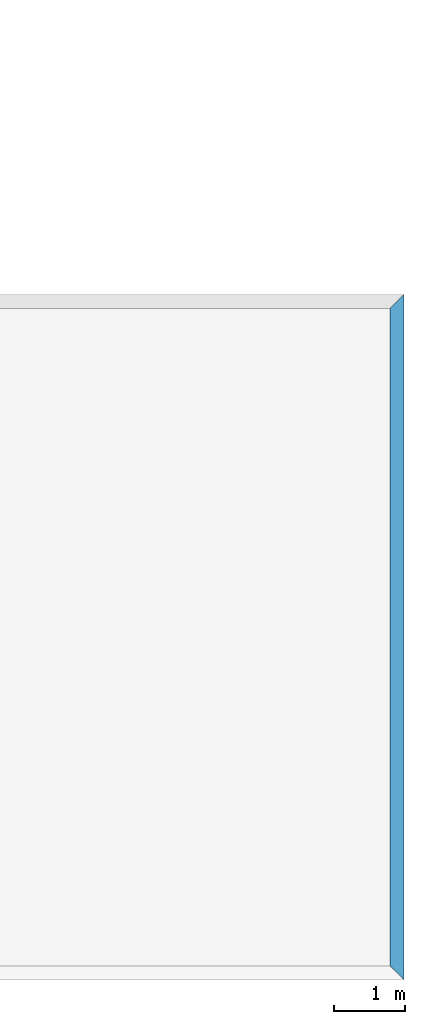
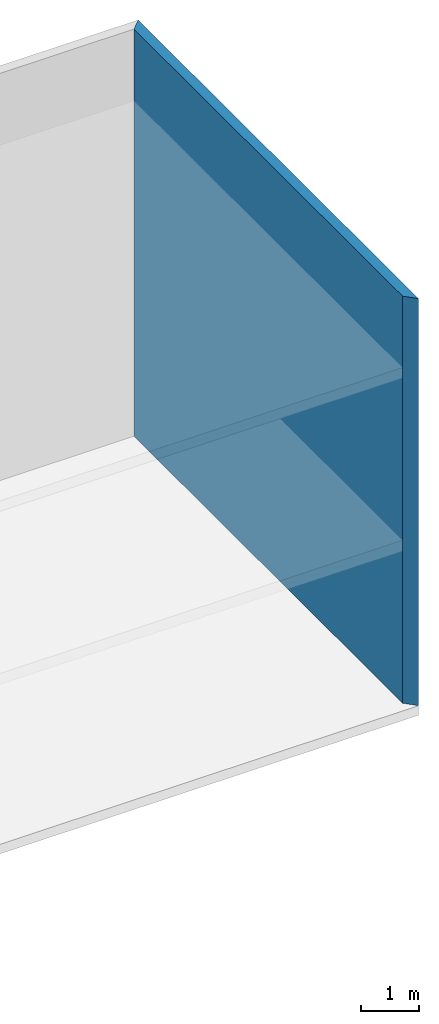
# One storey, part 3 of 10: 1 beam, 1 element without a shape of its own.
"""IFC2X3 building model written with IfcOpenShell, lengths in millimetres."""

from ifc_helpers import new_model, si_unit, frame, origin_with_axes, origin_2d_with_axis, place, context, subcontext, project, spatial, rectangle, extrude, clip, halfspace, material, type_object, element, aggregate, save


model = new_model("IFC2X3")

# Units and contexts
model_context = context("Model", 3, precision=1e-05, world=origin_with_axes())
body_context = subcontext(model_context, "Body", "Model", "MODEL_VIEW")
ifc_project = project(units=[si_unit("LENGTHUNIT", "METRE", prefix="MILLI"), si_unit("AREAUNIT", "SQUARE_METRE"), si_unit("VOLUMEUNIT", "CUBIC_METRE"), si_unit("MASSUNIT", "GRAM", prefix="KILO"), si_unit("TIMEUNIT", "SECOND"), si_unit("PLANEANGLEUNIT", "RADIAN"), si_unit("SOLIDANGLEUNIT", "STERADIAN"), si_unit("THERMODYNAMICTEMPERATUREUNIT", "DEGREE_CELSIUS"), si_unit("LUMINOUSINTENSITYUNIT", "LUMEN")], contexts=[model_context])

# Site, building, storey
site_placement = place(None, origin_with_axes())
site = spatial("IfcSite", under=ifc_project, at=site_placement, Name="Undefined", CompositionType="ELEMENT")
building_placement = place(site_placement, origin_with_axes())
building = spatial("IfcBuilding", under=site, at=building_placement, Name="Undefined", CompositionType="ELEMENT")
storey_placement = place(building_placement, origin_with_axes())
storey = spatial("IfcBuildingStorey", under=building, at=storey_placement, Name="Undefined", CompositionType="ELEMENT", Elevation=0.0)

# Assembly, beam
assembly_placement = place(storey_placement, origin_with_axes())
assembly = element("IfcElementAssembly", 1, at=assembly_placement, inside=storey, Name="POUTRE", AssemblyPlace="NOTDEFINED", PredefinedType="REINFORCEMENT_UNIT")
ifc_material = material(Name="CONCRETE/C25/30")
beam_type = type_object("IfcBeamType", Name="8550*200", PredefinedType="NOTDEFINED")
beam_placement = place(assembly_placement, frame((48932.9999999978, 15389.9999999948, 4275.0), z_axis=(0.0, 0.0, 1.0), x_axis=(0.0, 1.0, 0.0)))
beam = element("IfcBeam", 2, at=beam_placement, type_object=beam_type, material=ifc_material, Name="POUTRE", ObjectType="8550*200", context=body_context, shape_type="Clipping", body=[
    clip(clip(extrude(rectangle(XDim=200.0, YDim=8550.0, at=origin_2d_with_axis()), frame((9752.0002879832, 0.0, 0.0), z_axis=(-1.0, 0.0, 0.0), x_axis=(-8.92000021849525e-07, -0.999999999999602, 0.0)), (0.0, 0.0, 1.0), 9854.0), halfspace(frame((9650.0001439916, -99.9998560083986, -4275.0), z_axis=(0.707106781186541, 0.707106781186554, 0.0), x_axis=(0.0, 0.0, 1.0)), False)), halfspace(frame((200.000153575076, 100.000729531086, -4275.0), z_axis=(-0.707106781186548, 0.707106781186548, 0.0), x_axis=(0.0, 0.0, 1.0)), False)),
])
aggregate(assembly, [beam])

save(model, "model.ifc")
